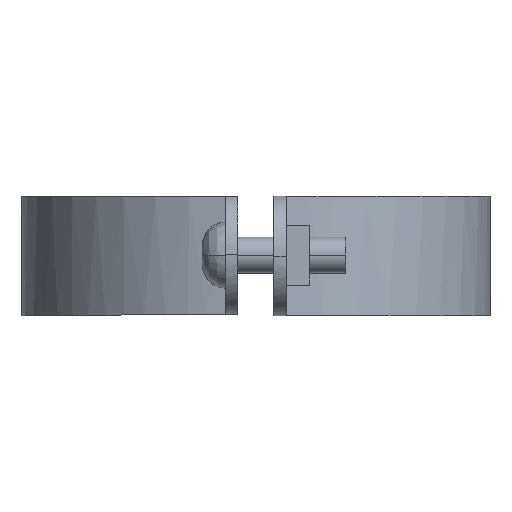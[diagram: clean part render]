
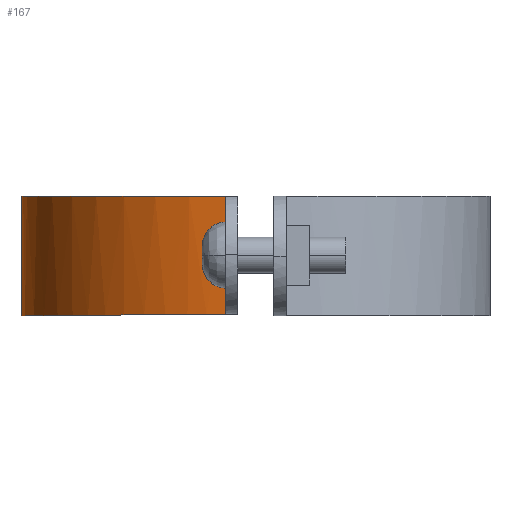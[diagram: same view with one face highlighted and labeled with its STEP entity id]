
A CAD part, left-side view. The second image highlights one B-rep face of the part: STEP entity #167.
In plain terms, the highlighted free-form (B-spline) face has degree [3, 1] with [4, 2] control points.
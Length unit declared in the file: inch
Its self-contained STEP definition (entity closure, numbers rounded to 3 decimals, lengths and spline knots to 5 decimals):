
#167=ADVANCED_FACE('',(#373),#374,.T.);
#373=FACE_OUTER_BOUND('',#789,.T.);
#374=B_SPLINE_SURFACE_WITH_KNOTS('',3,1,((#790,#791),(#792,#793),(#794,#795),(#796,#797)),.UNSPECIFIED.,.F.,.F.,.F.,(4,4),(2,2),(0.0,1.0),(0.0,1.25),.UNSPECIFIED.);
#789=EDGE_LOOP('',(#1355,#1356,#1357,#1358));
#790=CARTESIAN_POINT('',(3.10193,4.84891,0.0));
#791=CARTESIAN_POINT('',(3.10193,4.84891,1.25));
#792=CARTESIAN_POINT('',(1.87552,4.84891,0.0));
#793=CARTESIAN_POINT('',(1.87552,4.84891,1.25));
#794=CARTESIAN_POINT('',(0.83978,3.93843,0.0));
#795=CARTESIAN_POINT('',(0.83978,3.93843,1.25));
#796=CARTESIAN_POINT('',(0.68254,2.72216,0.0));
#797=CARTESIAN_POINT('',(0.68254,2.72216,1.25));
#1355=ORIENTED_EDGE('',*,*,#1934,.T.);
#1356=ORIENTED_EDGE('',*,*,#1942,.T.);
#1357=ORIENTED_EDGE('',*,*,#1943,.T.);
#1358=ORIENTED_EDGE('',*,*,#1944,.F.);
#1934=EDGE_CURVE('',#2228,#2237,#2239,.T.);
#1942=EDGE_CURVE('',#2237,#2251,#2252,.T.);
#1943=EDGE_CURVE('',#2251,#2253,#2254,.T.);
#1944=EDGE_CURVE('',#2228,#2253,#2255,.T.);
#2228=VERTEX_POINT('',#2698);
#2237=VERTEX_POINT('',#2712);
#2239=B_SPLINE_CURVE_WITH_KNOTS('',3,(#2715,#2716,#2717,#2718,#2719,#2720,#2721,#2722,#2723,#2724),.UNSPECIFIED.,.F.,.F.,(4,2,2,2,4),(-3.53624,-2.69711,-1.88422,-0.94156,-0.0),.UNSPECIFIED.);
#2251=VERTEX_POINT('',#2763);
#2252=LINE('',#2764,#2765);
#2253=VERTEX_POINT('',#2766);
#2254=B_SPLINE_CURVE_WITH_KNOTS('',3,(#2767,#2768,#2769,#2770),.UNSPECIFIED.,.F.,.F.,(4,4),(-1.0,-0.0),.UNSPECIFIED.);
#2255=LINE('',#2771,#2772);
#2698=CARTESIAN_POINT('',(3.10193,4.84891,0.00211));
#2712=CARTESIAN_POINT('',(0.68254,2.72216,0.01831));
#2715=CARTESIAN_POINT('',(3.10193,4.84891,0.00211));
#2716=CARTESIAN_POINT('',(2.82236,4.84891,0.00211));
#2717=CARTESIAN_POINT('',(2.54631,4.8016,0.00247));
#2718=CARTESIAN_POINT('',(2.02851,4.61708,0.00388));
#2719=CARTESIAN_POINT('',(1.79063,4.48429,0.00489));
#2720=CARTESIAN_POINT('',(1.3345,4.1198,0.00767));
#2721=CARTESIAN_POINT('',(1.129,3.87855,0.0095));
#2722=CARTESIAN_POINT('',(0.82152,3.33216,0.01366));
#2723=CARTESIAN_POINT('',(0.72278,3.03342,0.01594));
#2724=CARTESIAN_POINT('',(0.68254,2.72216,0.01831));
#2763=CARTESIAN_POINT('',(0.68254,2.72216,1.25));
#2764=CARTESIAN_POINT('',(0.68254,2.72216,0.0));
#2765=VECTOR('',#3314,1.0);
#2766=CARTESIAN_POINT('',(3.10193,4.84891,1.25));
#2767=CARTESIAN_POINT('',(0.68254,2.72216,1.25));
#2768=CARTESIAN_POINT('',(0.83978,3.93843,1.25));
#2769=CARTESIAN_POINT('',(1.87552,4.84891,1.25));
#2770=CARTESIAN_POINT('',(3.10193,4.84891,1.25));
#2771=CARTESIAN_POINT('',(3.10193,4.84891,0.0));
#2772=VECTOR('',#3315,1.0);
#3314=DIRECTION('',(0.0,0.0,1.0));
#3315=DIRECTION('',(0.0,0.0,1.0));
